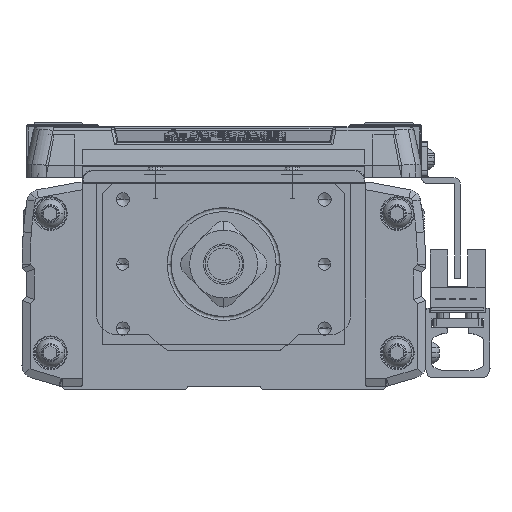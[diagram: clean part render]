
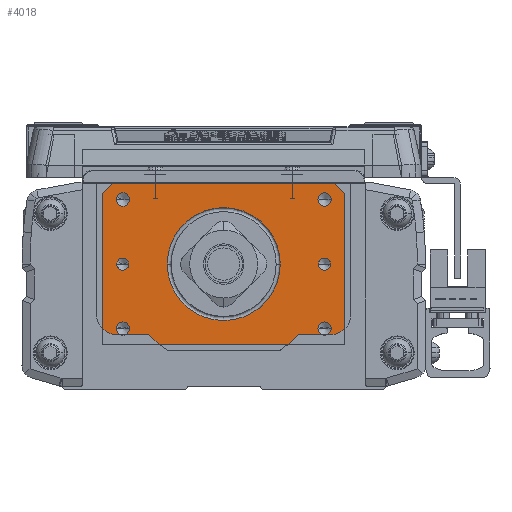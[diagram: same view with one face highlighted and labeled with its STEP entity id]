
A CAD part, left-side view. The second image highlights one B-rep face of the part: STEP entity #4018.
In plain terms, the highlighted planar face has unit normal (-1, 0, 0).
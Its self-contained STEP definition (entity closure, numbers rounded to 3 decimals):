
#4018=ADVANCED_FACE('',(#9725,#9726,#9727,#9728,#9729,#9730,#9731,#9732),#9733,.T.);
#9725=FACE_BOUND('',#17864,.T.);
#9726=FACE_BOUND('',#17865,.T.);
#9727=FACE_BOUND('',#17866,.T.);
#9728=FACE_BOUND('',#17867,.T.);
#9729=FACE_BOUND('',#17868,.T.);
#9730=FACE_BOUND('',#17869,.T.);
#9731=FACE_BOUND('',#17870,.T.);
#9732=FACE_OUTER_BOUND('',#17871,.T.);
#9733=PLANE('',#17872);
#17864=EDGE_LOOP('',(#28888,#28889));
#17865=EDGE_LOOP('',(#28890,#28891));
#17866=EDGE_LOOP('',(#28892,#28893));
#17867=EDGE_LOOP('',(#28894,#28895));
#17868=EDGE_LOOP('',(#28896,#28897));
#17869=EDGE_LOOP('',(#28898,#28899));
#17870=EDGE_LOOP('',(#28900,#28901,#28902));
#17871=EDGE_LOOP('',(#28903,#28904,#28905,#28906,#28907,#28908));
#17872=AXIS2_PLACEMENT_3D('',#28909,#28910,#28911);
#28888=ORIENTED_EDGE('',*,*,#49352,.T.);
#28889=ORIENTED_EDGE('',*,*,#49353,.T.);
#28890=ORIENTED_EDGE('',*,*,#49354,.T.);
#28891=ORIENTED_EDGE('',*,*,#49355,.T.);
#28892=ORIENTED_EDGE('',*,*,#48022,.T.);
#28893=ORIENTED_EDGE('',*,*,#47570,.T.);
#28894=ORIENTED_EDGE('',*,*,#48674,.T.);
#28895=ORIENTED_EDGE('',*,*,#49356,.T.);
#28896=ORIENTED_EDGE('',*,*,#49357,.T.);
#28897=ORIENTED_EDGE('',*,*,#49358,.T.);
#28898=ORIENTED_EDGE('',*,*,#48838,.T.);
#28899=ORIENTED_EDGE('',*,*,#48302,.T.);
#28900=ORIENTED_EDGE('',*,*,#49359,.T.);
#28901=ORIENTED_EDGE('',*,*,#49360,.T.);
#28902=ORIENTED_EDGE('',*,*,#49361,.T.);
#28903=ORIENTED_EDGE('',*,*,#49274,.F.);
#28904=ORIENTED_EDGE('',*,*,#48552,.F.);
#28905=ORIENTED_EDGE('',*,*,#49362,.T.);
#28906=ORIENTED_EDGE('',*,*,#49363,.T.);
#28907=ORIENTED_EDGE('',*,*,#49364,.F.);
#28908=ORIENTED_EDGE('',*,*,#49365,.T.);
#28909=CARTESIAN_POINT('',(-580.,0.,-20.));
#28910=DIRECTION('',(-1.0,0.,0.));
#28911=DIRECTION('',(0.,-1.0,0.));
#47570=EDGE_CURVE('',#57198,#57195,#57199,.T.);
#48022=EDGE_CURVE('',#57195,#57198,#57981,.T.);
#48302=EDGE_CURVE('',#58465,#58462,#58466,.T.);
#48552=EDGE_CURVE('',#58894,#58892,#58896,.T.);
#48674=EDGE_CURVE('',#59087,#59090,#59092,.T.);
#48838=EDGE_CURVE('',#58462,#58465,#59367,.T.);
#49274=EDGE_CURVE('',#58892,#60076,#60077,.T.);
#49352=EDGE_CURVE('',#60203,#60204,#60205,.T.);
#49353=EDGE_CURVE('',#60204,#60203,#60206,.T.);
#49354=EDGE_CURVE('',#60207,#60208,#60209,.T.);
#49355=EDGE_CURVE('',#60208,#60207,#60210,.T.);
#49356=EDGE_CURVE('',#59090,#59087,#60211,.T.);
#49357=EDGE_CURVE('',#60212,#60213,#60214,.T.);
#49358=EDGE_CURVE('',#60213,#60212,#60215,.T.);
#49359=EDGE_CURVE('',#60216,#60217,#60218,.T.);
#49360=EDGE_CURVE('',#60217,#60219,#60220,.T.);
#49361=EDGE_CURVE('',#60219,#60216,#60221,.T.);
#49362=EDGE_CURVE('',#58894,#60222,#60223,.T.);
#49363=EDGE_CURVE('',#60222,#60224,#60225,.T.);
#49364=EDGE_CURVE('',#60226,#60224,#60227,.T.);
#49365=EDGE_CURVE('',#60226,#60076,#60228,.T.);
#57195=VERTEX_POINT('',#70786);
#57198=VERTEX_POINT('',#70790);
#57199=CIRCLE('',#70791,1.65);
#57981=CIRCLE('',#71893,1.65);
#58462=VERTEX_POINT('',#72536);
#58465=VERTEX_POINT('',#72540);
#58466=CIRCLE('',#72541,1.65);
#58892=VERTEX_POINT('',#73142);
#58894=VERTEX_POINT('',#73145);
#58896=LINE('',#73148,#73149);
#59087=VERTEX_POINT('',#73439);
#59090=VERTEX_POINT('',#73443);
#59092=CIRCLE('',#73446,1.65);
#59367=CIRCLE('',#73807,1.65);
#60076=VERTEX_POINT('',#74795);
#60077=LINE('',#74796,#74797);
#60203=VERTEX_POINT('',#74967);
#60204=VERTEX_POINT('',#74968);
#60205=CIRCLE('',#74969,1.5);
#60206=CIRCLE('',#74970,1.5);
#60207=VERTEX_POINT('',#74971);
#60208=VERTEX_POINT('',#74972);
#60209=CIRCLE('',#74973,1.5);
#60210=CIRCLE('',#74974,1.5);
#60211=CIRCLE('',#74975,1.65);
#60212=VERTEX_POINT('',#74976);
#60213=VERTEX_POINT('',#74977);
#60214=CIRCLE('',#74978,1.65);
#60215=CIRCLE('',#74979,1.65);
#60216=VERTEX_POINT('',#74980);
#60217=VERTEX_POINT('',#74981);
#60218=CIRCLE('',#74982,14.0);
#60219=VERTEX_POINT('',#74983);
#60220=CIRCLE('',#74984,14.0);
#60221=CIRCLE('',#74985,14.0);
#60222=VERTEX_POINT('',#74986);
#60223=LINE('',#74987,#74988);
#60224=VERTEX_POINT('',#74989);
#60225=LINE('',#74990,#74991);
#60226=VERTEX_POINT('',#74992);
#60227=LINE('',#74993,#74994);
#60228=LINE('',#74995,#74996);
#70786=CARTESIAN_POINT('',(-580.,-26.65,-16.));
#70790=CARTESIAN_POINT('',(-580.,-23.35,-16.));
#70791=AXIS2_PLACEMENT_3D('',#87746,#87747,#87748);
#71893=AXIS2_PLACEMENT_3D('',#88403,#88404,#88405);
#72536=CARTESIAN_POINT('',(-580.,-26.65,16.));
#72540=CARTESIAN_POINT('',(-580.,-23.35,16.));
#72541=AXIS2_PLACEMENT_3D('',#88746,#88747,#88748);
#73142=CARTESIAN_POINT('',(-580.,30.,17.5));
#73145=CARTESIAN_POINT('',(-580.,30.,-20.));
#73148=CARTESIAN_POINT('',(-580.,30.,-20.));
#73149=VECTOR('',#89098,10.0);
#73439=CARTESIAN_POINT('',(-580.,26.65,-16.));
#73443=CARTESIAN_POINT('',(-580.,23.35,-16.));
#73446=AXIS2_PLACEMENT_3D('',#89241,#89242,#89243);
#73807=AXIS2_PLACEMENT_3D('',#89468,#89469,#89470);
#74795=CARTESIAN_POINT('',(-580.,27.5,20.));
#74796=CARTESIAN_POINT('',(-580.,31.25,16.25));
#74797=VECTOR('',#90057,10.);
#74967=CARTESIAN_POINT('',(-580.,-26.5,0.));
#74968=CARTESIAN_POINT('',(-580.,-23.5,0.));
#74969=AXIS2_PLACEMENT_3D('',#90147,#90148,#90149);
#74970=AXIS2_PLACEMENT_3D('',#90150,#90151,#90152);
#74971=CARTESIAN_POINT('',(-580.,26.5,0.));
#74972=CARTESIAN_POINT('',(-580.,23.5,0.));
#74973=AXIS2_PLACEMENT_3D('',#90153,#90154,#90155);
#74974=AXIS2_PLACEMENT_3D('',#90156,#90157,#90158);
#74975=AXIS2_PLACEMENT_3D('',#90159,#90160,#90161);
#74976=CARTESIAN_POINT('',(-580.,26.65,16.));
#74977=CARTESIAN_POINT('',(-580.,23.35,16.));
#74978=AXIS2_PLACEMENT_3D('',#90162,#90163,#90164);
#74979=AXIS2_PLACEMENT_3D('',#90165,#90166,#90167);
#74980=CARTESIAN_POINT('',(-580.,0.,-14.));
#74981=CARTESIAN_POINT('',(-580.,14.,0.));
#74982=AXIS2_PLACEMENT_3D('',#90168,#90169,#90170);
#74983=CARTESIAN_POINT('',(-580.,-14.,0.));
#74984=AXIS2_PLACEMENT_3D('',#90171,#90172,#90173);
#74985=AXIS2_PLACEMENT_3D('',#90174,#90175,#90176);
#74986=CARTESIAN_POINT('',(-580.,-30.,-20.));
#74987=CARTESIAN_POINT('',(-580.,30.,-20.));
#74988=VECTOR('',#90177,10.0);
#74989=CARTESIAN_POINT('',(-580.,-30.,17.5));
#74990=CARTESIAN_POINT('',(-580.,-30.,-20.));
#74991=VECTOR('',#90178,10.0);
#74992=CARTESIAN_POINT('',(-580.,-27.5,20.));
#74993=CARTESIAN_POINT('',(-580.,-31.25,16.25));
#74994=VECTOR('',#90179,10.);
#74995=CARTESIAN_POINT('',(-580.,30.,20.));
#74996=VECTOR('',#90180,10.0);
#87746=CARTESIAN_POINT('',(-580.,-25.,-16.));
#87747=DIRECTION('',(1.0,0.,0.));
#87748=DIRECTION('',(0.,-1.0,0.));
#88403=CARTESIAN_POINT('',(-580.,-25.,-16.));
#88404=DIRECTION('',(1.0,0.,0.));
#88405=DIRECTION('',(0.,-1.0,0.));
#88746=CARTESIAN_POINT('',(-580.,-25.,16.));
#88747=DIRECTION('',(1.0,0.,0.));
#88748=DIRECTION('',(0.,-1.0,0.));
#89098=DIRECTION('',(0.,0.,1.0));
#89241=CARTESIAN_POINT('',(-580.,25.,-16.));
#89242=DIRECTION('',(1.0,0.,0.));
#89243=DIRECTION('',(0.,1.0,0.));
#89468=CARTESIAN_POINT('',(-580.,-25.,16.));
#89469=DIRECTION('',(1.0,0.,0.));
#89470=DIRECTION('',(0.,-1.0,0.));
#90057=DIRECTION('',(0.,-0.707,0.707));
#90147=CARTESIAN_POINT('',(-580.,-25.,0.));
#90148=DIRECTION('',(1.0,0.,0.));
#90149=DIRECTION('',(0.,-1.0,0.));
#90150=CARTESIAN_POINT('',(-580.,-25.,0.));
#90151=DIRECTION('',(1.0,0.,0.));
#90152=DIRECTION('',(0.,-1.0,0.));
#90153=CARTESIAN_POINT('',(-580.,25.,0.));
#90154=DIRECTION('',(1.0,0.,0.));
#90155=DIRECTION('',(0.,1.0,0.));
#90156=CARTESIAN_POINT('',(-580.,25.,0.));
#90157=DIRECTION('',(1.0,0.,0.));
#90158=DIRECTION('',(0.,1.0,0.));
#90159=CARTESIAN_POINT('',(-580.,25.,-16.));
#90160=DIRECTION('',(1.0,0.,0.));
#90161=DIRECTION('',(0.,1.0,0.));
#90162=CARTESIAN_POINT('',(-580.,25.,16.));
#90163=DIRECTION('',(1.0,0.,0.));
#90164=DIRECTION('',(0.,1.0,0.));
#90165=CARTESIAN_POINT('',(-580.,25.,16.));
#90166=DIRECTION('',(1.0,0.,0.));
#90167=DIRECTION('',(0.,1.0,0.));
#90168=CARTESIAN_POINT('',(-580.,0.,0.));
#90169=DIRECTION('',(1.0,0.,0.));
#90170=DIRECTION('',(0.,0.,1.0));
#90171=CARTESIAN_POINT('',(-580.,0.,0.));
#90172=DIRECTION('',(1.0,0.,0.));
#90173=DIRECTION('',(0.,0.,1.0));
#90174=CARTESIAN_POINT('',(-580.,0.,0.));
#90175=DIRECTION('',(1.0,0.,0.));
#90176=DIRECTION('',(0.,0.,1.0));
#90177=DIRECTION('',(0.,-1.0,0.));
#90178=DIRECTION('',(0.,0.,1.0));
#90179=DIRECTION('',(0.0,-0.707,-0.707));
#90180=DIRECTION('',(0.,1.0,0.));
